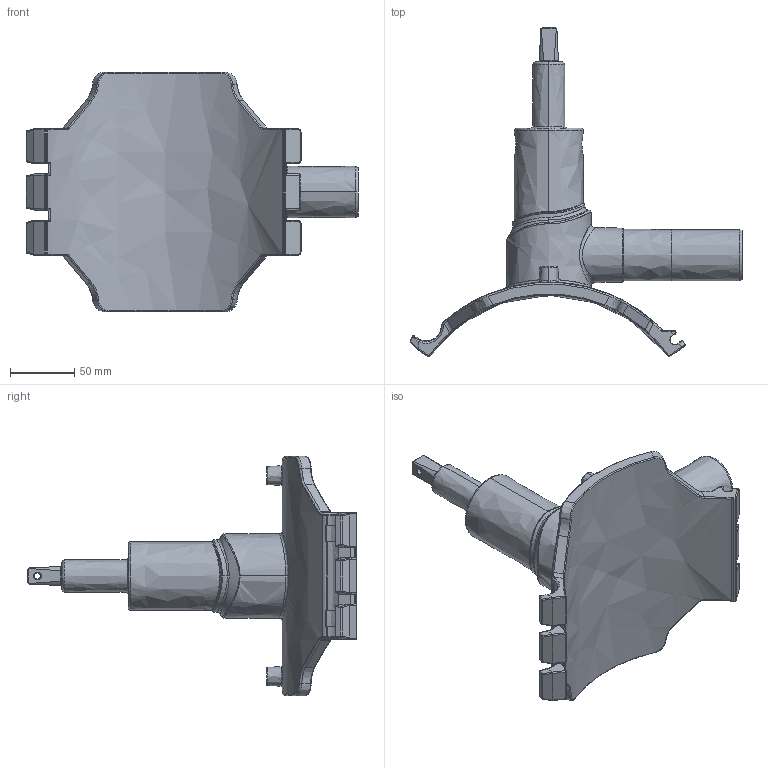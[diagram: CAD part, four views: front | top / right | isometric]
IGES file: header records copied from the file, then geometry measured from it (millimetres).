
Start section:  PTC IGES file: dav2_d225_40_01.igs
Global section: file name: dav2_d225_40_01.igs; native system: Creo Parametric by PTC Inc.; preprocessor: 2019030; author: demmerls; organization: Unknown; date: 20201126.135222; units: millimetre
Bounding box: 257.83 x 256.06 x 186 mm (x, y, z)
Surface area: 130161.4 mm2 (no closed solid volume)
Topology: 0 solids, 0 shells, 573 faces, 2798 edges, 2792 vertices
Faces by surface type: bspline 573
